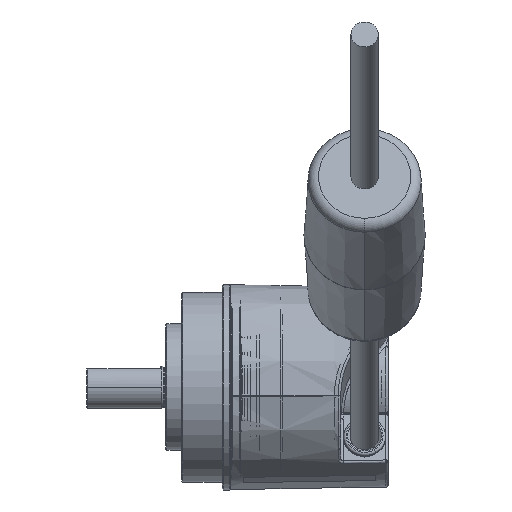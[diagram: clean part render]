
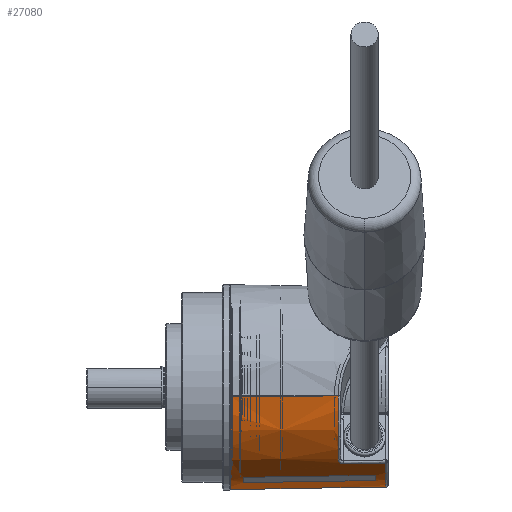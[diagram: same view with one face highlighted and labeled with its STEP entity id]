
A CAD part, front view. The second image highlights one B-rep face of the part: STEP entity #27080.
In plain terms, the highlighted conical face has half-angle 1 degrees and reference radius 18.976 mm.
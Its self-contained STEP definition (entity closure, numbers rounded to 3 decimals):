
#207 = CARTESIAN_POINT ( 'NONE',  ( 12.2, 19.426, 1.7 ) ) ;
#211 = CARTESIAN_POINT ( 'NONE',  ( 12.2, -19.426, -1.7 ) ) ;
#239 = CARTESIAN_POINT ( 'NONE',  ( 39.7, -9.088, -16.708 ) ) ;
#296 = CARTESIAN_POINT ( 'NONE',  ( 32.709, -19.069, -1.668 ) ) ;
#300 = CARTESIAN_POINT ( 'NONE',  ( 32.709, -13.243, -13.822 ) ) ;
#310 = CARTESIAN_POINT ( 'NONE',  ( 14.7, -9.285, -17.098 ) ) ;
#367 = CARTESIAN_POINT ( 'NONE',  ( 39.7, -6.957, -17.702 ) ) ;
#387 = CARTESIAN_POINT ( 'NONE',  ( 14.7, -7.13, -18.103 ) ) ;
#423 = CARTESIAN_POINT ( 'NONE',  ( 33.709, -12.439, -14.527 ) ) ;
#1973 = FACE_BOUND ( 'NONE', #3972, .T. ) ;
#1975 = FACE_OUTER_BOUND ( 'NONE', #3887, .T. ) ;
#1984 = CONICAL_SURFACE ( 'NONE', #20130, 18.976, 0.017 ) ;
#3887 = EDGE_LOOP ( 'NONE', ( #11444, #11445, #11446, #11447, #11448, #11449, #11450 ) ) ;
#3972 = EDGE_LOOP ( 'NONE', ( #11451, #11452, #11453, #11454 ) ) ;
#4463 = VERTEX_POINT ( 'NONE', #6998 ) ;
#4552 = VERTEX_POINT ( 'NONE', #6927 ) ;
#5281 = DIRECTION ( 'NONE',  ( 0., -0.996, -0.087 ) ) ;
#5282 = CARTESIAN_POINT ( 'NONE',  ( 42.2, 0., 0. ) ) ;
#5283 = DIRECTION ( 'NONE',  ( -1., 0., 0. ) ) ;
#6927 = CARTESIAN_POINT ( 'NONE',  ( 41.709, -12.378, -14.395 ) ) ;
#6998 = CARTESIAN_POINT ( 'NONE',  ( 41.709, 18.913, 1.655 ) ) ;
#7370 = B_SPLINE_CURVE_WITH_KNOTS ( 'NONE', 3,
 ( #18091, #18087, #18093, #18094, #18095, #18096, #18097, #18098, #18099, #18100 ),
 .UNSPECIFIED., .F., .F.,
 ( 4, 3, 3, 4 ),
 ( 0., 0.001, 0.005, 0.008 ),
 .UNSPECIFIED. ) ;
#7382 = B_SPLINE_CURVE_WITH_KNOTS ( 'NONE', 3,
 ( #18088, #18081, #18076, #18089 ),
 .UNSPECIFIED., .F., .F.,
 ( 4, 4 ),
 ( 0., 0.025 ),
 .UNSPECIFIED. ) ;
#7448 = B_SPLINE_CURVE_WITH_KNOTS ( 'NONE', 3,
 ( #18054, #18047, #18049, #18055, #18056, #18057, #18058, #18059, #18060, #18061 ),
 .UNSPECIFIED., .F., .F.,
 ( 4, 2, 2, 2, 4 ),
 ( 0., 0., 0.001, 0.001, 0.002 ),
 .UNSPECIFIED. ) ;
#7492 = B_SPLINE_CURVE_WITH_KNOTS ( 'NONE', 3,
 ( #18063, #18062, #18050, #18064 ),
 .UNSPECIFIED., .F., .F.,
 ( 4, 4 ),
 ( 0., 0.025 ),
 .UNSPECIFIED. ) ;
#8525 = EDGE_CURVE ( 'NONE', #19824, #19962, #15415, .T. ) ;
#8526 = EDGE_CURVE ( 'NONE', #19806, #20031, #7448, .T. ) ;
#8527 = EDGE_CURVE ( 'NONE', #19962, #19926, #7492, .T. ) ;
#8529 = EDGE_CURVE ( 'NONE', #19657, #19650, #15419, .T. ) ;
#8532 = EDGE_CURVE ( 'NONE', #19806, #19799, #15402, .T. ) ;
#8535 = EDGE_CURVE ( 'NONE', #19699, #19824, #7382, .T. ) ;
#8537 = EDGE_CURVE ( 'NONE', #4552, #20031, #7370, .T. ) ;
#8542 = EDGE_CURVE ( 'NONE', #19699, #19926, #15431, .T. ) ;
#8561 = EDGE_CURVE ( 'NONE', #4463, #19650, #15448, .T. ) ;
#8565 = EDGE_CURVE ( 'NONE', #19799, #19657, #15450, .T. ) ;
#8682 = EDGE_CURVE ( 'NONE', #4463, #4552, #15525, .T. ) ;
#11444 = ORIENTED_EDGE ( 'NONE', *, *, #8561, .F. ) ;
#11445 = ORIENTED_EDGE ( 'NONE', *, *, #8682, .T. ) ;
#11446 = ORIENTED_EDGE ( 'NONE', *, *, #8537, .T. ) ;
#11447 = ORIENTED_EDGE ( 'NONE', *, *, #8526, .F. ) ;
#11448 = ORIENTED_EDGE ( 'NONE', *, *, #8532, .T. ) ;
#11449 = ORIENTED_EDGE ( 'NONE', *, *, #8565, .T. ) ;
#11450 = ORIENTED_EDGE ( 'NONE', *, *, #8529, .T. ) ;
#11451 = ORIENTED_EDGE ( 'NONE', *, *, #8535, .F. ) ;
#11452 = ORIENTED_EDGE ( 'NONE', *, *, #8542, .T. ) ;
#11453 = ORIENTED_EDGE ( 'NONE', *, *, #8527, .F. ) ;
#11454 = ORIENTED_EDGE ( 'NONE', *, *, #8525, .F. ) ;
#15402 = CIRCLE ( 'NONE', #18685, 19.142 ) ;
#15415 = CIRCLE ( 'NONE', #18681, 19.456 ) ;
#15419 = CIRCLE ( 'NONE', #18683, 19.5 ) ;
#15431 = CIRCLE ( 'NONE', #18691, 19.02 ) ;
#15448 = LINE ( 'NONE', #18207, #15452 ) ;
#15450 = LINE ( 'NONE', #18215, #15458 ) ;
#15452 = VECTOR ( 'NONE', #18208, 1000. ) ;
#15458 = VECTOR ( 'NONE', #18220, 1000. ) ;
#15525 = CIRCLE ( 'NONE', #18735, 18.985 ) ;
#18047 = CARTESIAN_POINT ( 'NONE',  ( 32.709, -13.144, -13.916 ) ) ;
#18049 = CARTESIAN_POINT ( 'NONE',  ( 32.733, -13.045, -14.009 ) ) ;
#18050 = CARTESIAN_POINT ( 'NONE',  ( 31.367, -7.015, -17.836 ) ) ;
#18051 = CARTESIAN_POINT ( 'NONE',  ( 14.7, 0., 0. ) ) ;
#18052 = DIRECTION ( 'NONE',  ( 1., 0., 0. ) ) ;
#18053 = DIRECTION ( 'NONE',  ( 0., -0.996, -0.087 ) ) ;
#18054 = CARTESIAN_POINT ( 'NONE',  ( 32.709, -13.243, -13.822 ) ) ;
#18055 = CARTESIAN_POINT ( 'NONE',  ( 32.827, -12.857, -14.179 ) ) ;
#18056 = CARTESIAN_POINT ( 'NONE',  ( 32.898, -12.767, -14.258 ) ) ;
#18057 = CARTESIAN_POINT ( 'NONE',  ( 33.079, -12.615, -14.389 ) ) ;
#18058 = CARTESIAN_POINT ( 'NONE',  ( 33.19, -12.551, -14.442 ) ) ;
#18059 = CARTESIAN_POINT ( 'NONE',  ( 33.437, -12.464, -14.512 ) ) ;
#18060 = CARTESIAN_POINT ( 'NONE',  ( 33.572, -12.44, -14.529 ) ) ;
#18061 = CARTESIAN_POINT ( 'NONE',  ( 33.709, -12.439, -14.527 ) ) ;
#18062 = CARTESIAN_POINT ( 'NONE',  ( 23.033, -7.072, -17.969 ) ) ;
#18063 = CARTESIAN_POINT ( 'NONE',  ( 14.7, -7.13, -18.103 ) ) ;
#18064 = CARTESIAN_POINT ( 'NONE',  ( 39.7, -6.957, -17.702 ) ) ;
#18069 = CARTESIAN_POINT ( 'NONE',  ( 12.2, 0., 0. ) ) ;
#18070 = DIRECTION ( 'NONE',  ( 1., 0., 0. ) ) ;
#18071 = DIRECTION ( 'NONE',  ( 0., 0.996, 0.087 ) ) ;
#18076 = CARTESIAN_POINT ( 'NONE',  ( 23.033, -9.219, -16.968 ) ) ;
#18077 = CARTESIAN_POINT ( 'NONE',  ( 32.709, 0., 0. ) ) ;
#18078 = DIRECTION ( 'NONE',  ( -1., 0., 0. ) ) ;
#18079 = DIRECTION ( 'NONE',  ( 0., 0.996, 0.087 ) ) ;
#18081 = CARTESIAN_POINT ( 'NONE',  ( 31.367, -9.154, -16.838 ) ) ;
#18087 = CARTESIAN_POINT ( 'NONE',  ( 41.375, -12.381, -14.4 ) ) ;
#18088 = CARTESIAN_POINT ( 'NONE',  ( 39.7, -9.088, -16.708 ) ) ;
#18089 = CARTESIAN_POINT ( 'NONE',  ( 14.7, -9.285, -17.098 ) ) ;
#18091 = CARTESIAN_POINT ( 'NONE',  ( 41.709, -12.378, -14.395 ) ) ;
#18093 = CARTESIAN_POINT ( 'NONE',  ( 41.042, -12.383, -14.406 ) ) ;
#18094 = CARTESIAN_POINT ( 'NONE',  ( 40.709, -12.386, -14.411 ) ) ;
#18095 = CARTESIAN_POINT ( 'NONE',  ( 39.376, -12.396, -14.433 ) ) ;
#18096 = CARTESIAN_POINT ( 'NONE',  ( 38.043, -12.406, -14.455 ) ) ;
#18097 = CARTESIAN_POINT ( 'NONE',  ( 36.71, -12.416, -14.477 ) ) ;
#18098 = CARTESIAN_POINT ( 'NONE',  ( 35.709, -12.424, -14.494 ) ) ;
#18099 = CARTESIAN_POINT ( 'NONE',  ( 34.709, -12.431, -14.51 ) ) ;
#18100 = CARTESIAN_POINT ( 'NONE',  ( 33.709, -12.439, -14.527 ) ) ;
#18114 = CARTESIAN_POINT ( 'NONE',  ( 39.7, 0., 0. ) ) ;
#18115 = DIRECTION ( 'NONE',  ( 1., 0., 0. ) ) ;
#18116 = DIRECTION ( 'NONE',  ( 0., -0.996, -0.087 ) ) ;
#18207 = CARTESIAN_POINT ( 'NONE',  ( 42.2, 18.904, 1.654 ) ) ;
#18208 = DIRECTION ( 'NONE',  ( -1., 0.017, 0.002 ) ) ;
#18215 = CARTESIAN_POINT ( 'NONE',  ( 42.2, -18.904, -1.654 ) ) ;
#18220 = DIRECTION ( 'NONE',  ( -1., -0.017, -0.002 ) ) ;
#18681 = AXIS2_PLACEMENT_3D ( 'NONE', #18051, #18052, #18053 ) ;
#18683 = AXIS2_PLACEMENT_3D ( 'NONE', #18069, #18070, #18071 ) ;
#18685 = AXIS2_PLACEMENT_3D ( 'NONE', #18077, #18078, #18079 ) ;
#18691 = AXIS2_PLACEMENT_3D ( 'NONE', #18114, #18115, #18116 ) ;
#18735 = AXIS2_PLACEMENT_3D ( 'NONE', #20565, #20566, #20567 ) ;
#19650 = VERTEX_POINT ( 'NONE', #207 ) ;
#19657 = VERTEX_POINT ( 'NONE', #211 ) ;
#19699 = VERTEX_POINT ( 'NONE', #239 ) ;
#19799 = VERTEX_POINT ( 'NONE', #296 ) ;
#19806 = VERTEX_POINT ( 'NONE', #300 ) ;
#19824 = VERTEX_POINT ( 'NONE', #310 ) ;
#19926 = VERTEX_POINT ( 'NONE', #367 ) ;
#19962 = VERTEX_POINT ( 'NONE', #387 ) ;
#20031 = VERTEX_POINT ( 'NONE', #423 ) ;
#20130 = AXIS2_PLACEMENT_3D ( 'NONE', #5282, #5283, #5281 ) ;
#20565 = CARTESIAN_POINT ( 'NONE',  ( 41.709, 0., 0. ) ) ;
#20566 = DIRECTION ( 'NONE',  ( -1., 0., 0. ) ) ;
#20567 = DIRECTION ( 'NONE',  ( 0., 0.996, 0.087 ) ) ;
#27080 = ADVANCED_FACE ( 'NONE', ( #1975, #1973 ), #1984, .T. ) ;
